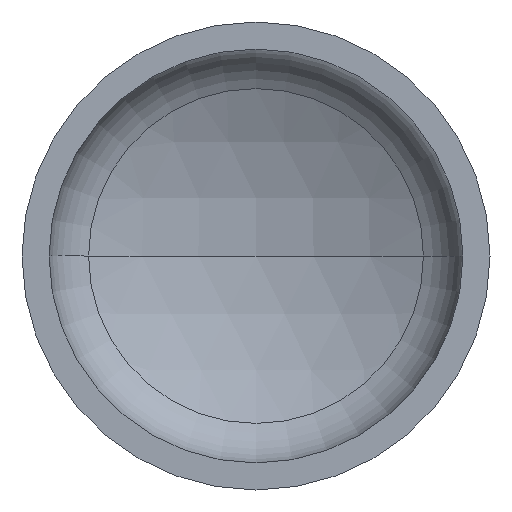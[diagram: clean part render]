
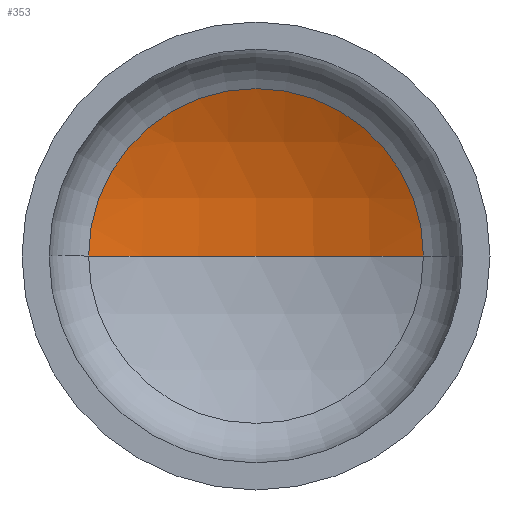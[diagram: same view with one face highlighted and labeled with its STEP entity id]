
A CAD part, front view. The second image highlights one B-rep face of the part: STEP entity #353.
In plain terms, the highlighted spherical face has radius 1520 mm.
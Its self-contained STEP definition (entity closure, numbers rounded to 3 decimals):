
#4 = DIRECTION ( 'NONE',  ( -1., 0., 0. ) ) ;
#8 = ORIENTED_EDGE ( 'NONE', *, *, #108, .T. ) ;
#12 = VERTEX_POINT ( 'NONE', #372 ) ;
#21 = EDGE_LOOP ( 'NONE', ( #77, #30, #8 ) ) ;
#30 = ORIENTED_EDGE ( 'NONE', *, *, #109, .T. ) ;
#35 = CARTESIAN_POINT ( 'NONE',  ( 0., 494.818, 0. ) ) ;
#45 = AXIS2_PLACEMENT_3D ( 'NONE', #208, #209, #227 ) ;
#47 = AXIS2_PLACEMENT_3D ( 'NONE', #378, #234, #4 ) ;
#50 = AXIS2_PLACEMENT_3D ( 'NONE', #213, #200, #201 ) ;
#77 = ORIENTED_EDGE ( 'NONE', *, *, #145, .F. ) ;
#108 = EDGE_CURVE ( 'NONE', #12, #129, #365, .T. ) ;
#109 = EDGE_CURVE ( 'NONE', #127, #12, #288, .T. ) ;
#119 = DIRECTION ( 'NONE',  ( -1., 0., 0. ) ) ;
#127 = VERTEX_POINT ( 'NONE', #35 ) ;
#129 = VERTEX_POINT ( 'NONE', #293 ) ;
#145 = EDGE_CURVE ( 'NONE', #127, #129, #283, .T. ) ;
#176 = DIRECTION ( 'NONE',  ( 0., 0., -1. ) ) ;
#200 = DIRECTION ( 'NONE',  ( 0., -1., 0. ) ) ;
#201 = DIRECTION ( 'NONE',  ( 1., 0., 0. ) ) ;
#208 = CARTESIAN_POINT ( 'NONE',  ( 0., -1025.182, 0. ) ) ;
#209 = DIRECTION ( 'NONE',  ( 0., 0., 1. ) ) ;
#213 = CARTESIAN_POINT ( 'NONE',  ( 0., 334.392, 0. ) ) ;
#227 = DIRECTION ( 'NONE',  ( 1., 0., 0. ) ) ;
#234 = DIRECTION ( 'NONE',  ( 0., 0., -1. ) ) ;
#283 = CIRCLE ( 'NONE', #45, 1520. ) ;
#288 = CIRCLE ( 'NONE', #47, 1520. ) ;
#293 = CARTESIAN_POINT ( 'NONE',  ( -679.675, 334.392, 0. ) ) ;
#312 = SPHERICAL_SURFACE ( 'NONE', #389, 1520. ) ;
#352 = CARTESIAN_POINT ( 'NONE',  ( 0., -1025.182, 0. ) ) ;
#353 = ADVANCED_FACE ( 'NONE', ( #380 ), #312, .F. ) ;
#365 = CIRCLE ( 'NONE', #50, 679.675 ) ;
#372 = CARTESIAN_POINT ( 'NONE',  ( 679.675, 334.392, 0. ) ) ;
#378 = CARTESIAN_POINT ( 'NONE',  ( 0., -1025.182, 0. ) ) ;
#380 = FACE_OUTER_BOUND ( 'NONE', #21, .T. ) ;
#389 = AXIS2_PLACEMENT_3D ( 'NONE', #352, #176, #119 ) ;
